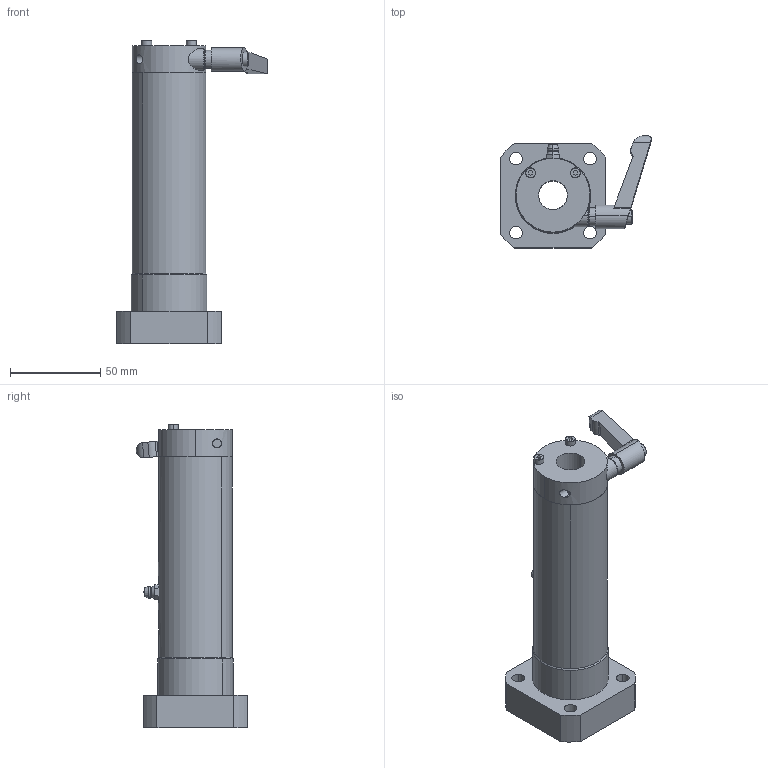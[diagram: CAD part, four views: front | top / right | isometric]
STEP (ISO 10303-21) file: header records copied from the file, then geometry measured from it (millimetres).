
FILE_DESCRIPTION (( 'STEP AP214' ), '1' );
FILE_NAME ('LFWL16-CS.STEP', '2023-06-27T02:33:06', ( '' ), ( '' ), 'SwSTEP 2.0', 'SolidWorks 2019', '' );
FILE_SCHEMA (( 'AUTOMOTIVE_DESIGN' ));
Length unit declared in the file: millimetre
Products named in the file (3): LFWL16-CS; LFWL16; “ÁSCK1615SS-S3.4
Assembly tree (2 placements, depth 2):
  LFWL16-CS
    LFWL16
    “ÁSCK1615SS-S3.4
Bounding box: 83.5 x 61.84 x 168 mm (x, y, z)
Volume: 221387.9 mm3; surface area: 49151.4 mm2
Topology: 3 solids, 9 shells, 235 faces, 570 edges, 361 vertices
Faces by surface type: cylinder 85, plane 69, bspline 47, cone 22, torus 8, sphere 4
Entity records: 10224 total; most frequent: CARTESIAN_POINT 2280, DIRECTION 1190, ORIENTED_EDGE 1136, EDGE_CURVE 568, AXIS2_PLACEMENT_3D 494, VERTEX_POINT 360, CIRCLE 301, EDGE_LOOP 284
